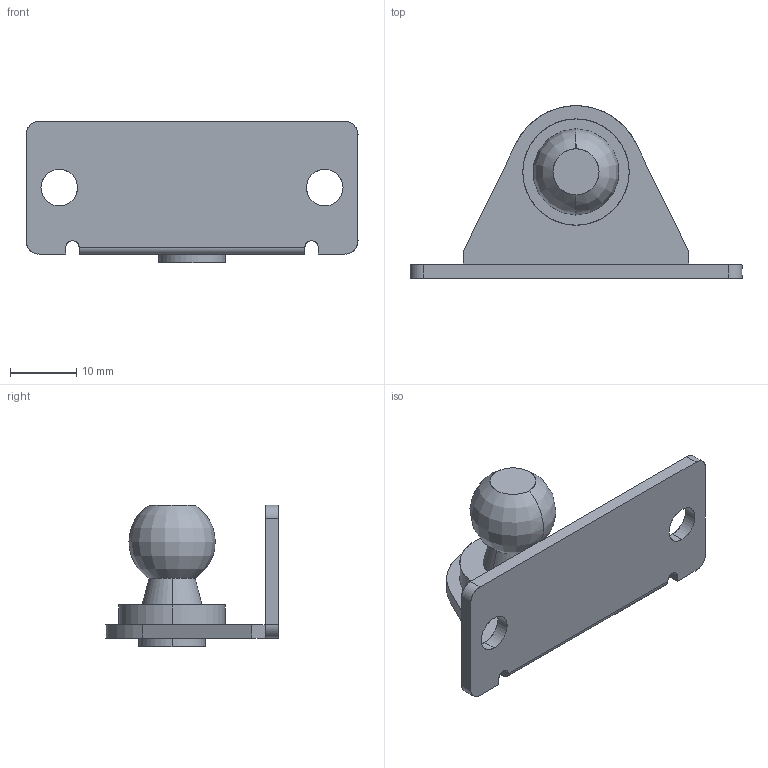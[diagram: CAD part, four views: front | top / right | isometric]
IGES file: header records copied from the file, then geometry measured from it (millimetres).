
Start section: SolidWorks IGES file using analytic representation for surfaces
Bounding box: 50 x 26 x 21.3 mm (x, y, z)
Surface area: 4131.7 mm2 (no closed solid volume)
Topology: 0 solids, 0 shells, 40 faces, 662 edges, 662 vertices
Faces by surface type: revolution 22, bspline 18
